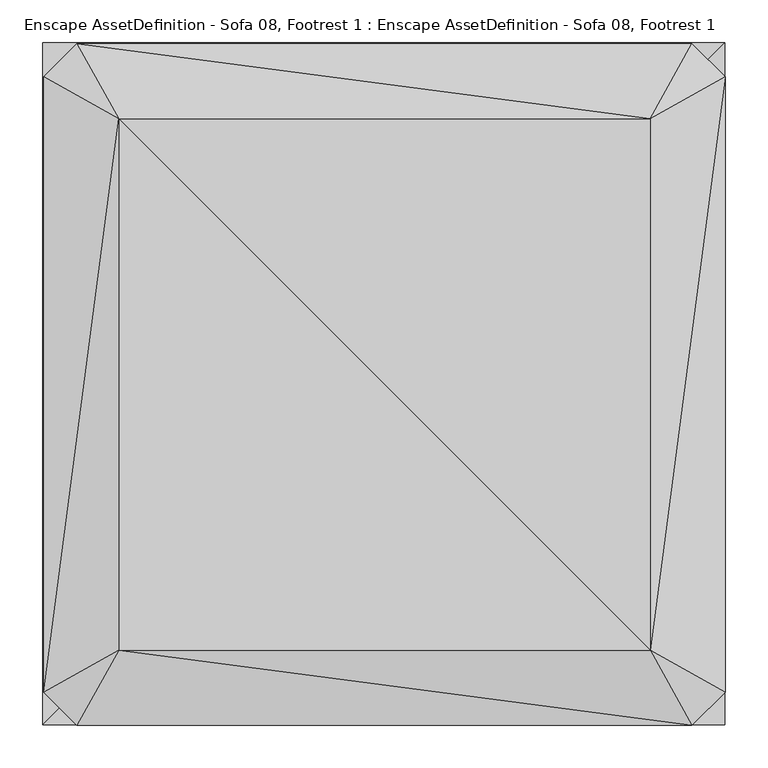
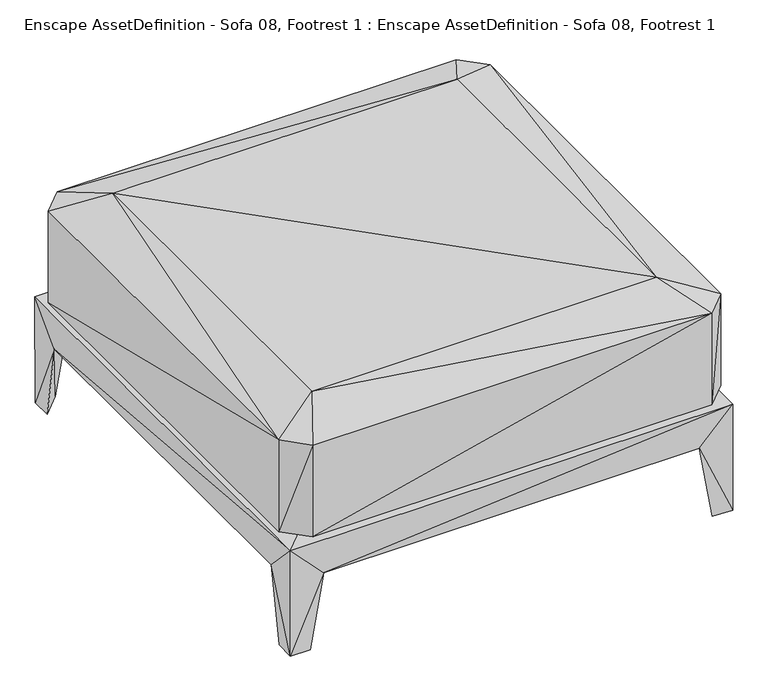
"""IFC4 building model written with IfcOpenShell, lengths in millimetres: geographic element geometry, Enscape AssetDefinition - Sofa 08, Footrest 1 : Enscape AssetDefinition - Sofa 08, Footrest 1."""

from ifc_helpers import new_model, si_unit, origin, place, context, project, spatial, faceted_brep, source, transform, mapped, element, save


def enscape_assetdefinition_sofa_08_footrest_1_enscape_865466e6(model_context):
    return source(origin(), model_context, "Body", "Brep", [
        faceted_brep([(-398.8949955, -358.6829901, 214.2020017), (-398.8949955, -358.6829901, 388.9780045), (-398.8949955, 360.1999879, 214.2020017), (-360.1709902, -397.4069953, 388.9780045), (-311.3360107, -309.8480105, 421.615988), (-311.3360107, 311.3650084, 421.615988), (-398.8949955, 360.1999879, 388.9780045), (-356.1829925, 356.2119901, 196.0189939), (-360.1709902, 398.9230096, 214.2020017), (-360.1709902, 398.9230096, 388.9780045), (309.8770082, -309.8480105, 421.615988), (309.8759949, 311.3650084, 421.615988), (358.7119877, -397.4069953, 388.9780045), (397.4350095, -358.6829901, 388.9780045), (397.4350095, 360.1999879, 388.9780045), (358.7119877, 398.9230096, 388.9780045), (358.7119877, 398.9230096, 214.2020017), (354.72399, 356.2119901, 196.0189939), (397.4350095, 360.1999879, 214.2020017), (397.4350095, -358.6829901, 214.2020017), (358.7119877, -397.4069953, 214.2020017), (354.72399, -354.6949923, 196.0189939), (-356.1829925, -354.6949923, 196.0189939), (-360.1709902, -397.4069953, 214.2020017)], [[[0, 1, 2]], [[1, 3, 4]], [[4, 5, 1]], [[2, 1, 6]], [[1, 5, 6]], [[0, 3, 1]], [[7, 2, 8]], [[7, 0, 2]], [[6, 8, 2]], [[9, 6, 5]], [[9, 8, 6]], [[4, 10, 5]], [[5, 11, 9]], [[5, 10, 11]], [[10, 4, 12]], [[12, 4, 3]], [[10, 12, 13]], [[11, 10, 14]], [[14, 10, 13]], [[14, 15, 11]], [[9, 11, 15]], [[8, 9, 16]], [[16, 9, 15]], [[8, 16, 7]], [[17, 16, 18]], [[16, 15, 18]], [[7, 16, 17]], [[18, 15, 14]], [[18, 14, 19]], [[19, 14, 13]], [[12, 20, 13]], [[13, 20, 19]], [[19, 20, 21]], [[21, 18, 19]], [[17, 18, 21]], [[21, 7, 17]], [[22, 7, 21]], [[20, 23, 21]], [[21, 23, 22]], [[20, 12, 23]], [[22, 23, 0]], [[23, 3, 0]], [[23, 12, 3]], [[22, 0, 7]]]),
        faceted_brep([(360.8190119, -396.0939944, 0.0), (396.9750106, -396.7719972, 0.0), (336.897999, -396.6290057, 138.4939998), (397.2750008, -396.9750106, 201.849997), (396.8349993, -336.710006, 138.3920014), (396.2979913, -360.6159985, 0.0), (396.8349993, 339.8939967, 138.3920014), (397.2750008, 400.1590014, 201.849997), (-339.6759927, -396.6290057, 138.4939998), (-400.0529945, -396.9750106, 201.849997), (-363.5970056, -396.0939944, 0.0), (-399.612993, -336.710006, 138.3920014), (-399.7530043, -396.7719972, 0.0), (-339.6759927, 399.8129964, 138.4939998), (-399.0750015, -360.6159985, 0.0), (-399.612993, 339.8939967, 138.3920014), (-400.0529945, 400.1590014, 201.849997), (-363.5970056, 399.2789984, 0.0), (-399.7530043, 399.9559879, 0.0), (-399.0750015, 363.7999892, 0.0), (336.897999, 399.8129964, 138.4939998), (396.9750106, 399.9559879, 0.0), (360.8190119, 399.2789984, 0.0), (396.2979913, 363.7999892, 0.0)], [[[0, 1, 2]], [[3, 1, 4]], [[1, 0, 5]], [[2, 1, 3]], [[4, 1, 5]], [[2, 4, 0]], [[0, 4, 5]], [[2, 6, 4]], [[3, 4, 7]], [[7, 4, 6]], [[2, 3, 8]], [[8, 3, 9]], [[7, 9, 3]], [[8, 10, 11]], [[9, 12, 8]], [[8, 12, 10]], [[13, 2, 8]], [[13, 8, 11]], [[14, 10, 12]], [[11, 10, 14]], [[9, 11, 12]], [[12, 11, 14]], [[13, 11, 15]], [[9, 15, 11]], [[16, 15, 9]], [[16, 9, 7]], [[13, 15, 17]], [[16, 18, 15]], [[17, 15, 19]], [[15, 18, 19]], [[7, 13, 16]], [[13, 18, 16]], [[17, 18, 13]], [[18, 17, 19]], [[20, 13, 7]], [[2, 13, 20]], [[7, 21, 20]], [[7, 6, 21]], [[20, 22, 6]], [[2, 20, 6]], [[20, 21, 22]], [[23, 22, 21]], [[21, 6, 23]], [[6, 22, 23]]]),
    ])


if __name__ == "__main__":
    model = new_model("IFC4")
    model_context = context("Model", 3, world=origin())
    ifc_project = project(units=[si_unit("LENGTHUNIT", "METRE", prefix="MILLI")], contexts=[model_context])
    site = spatial("IfcSite", under=ifc_project)
    building = spatial("IfcBuilding", under=site)
    placement = place(None, origin())
    enscape_assetdefinition_sofa_08_footrest_1_enscape_shape = enscape_assetdefinition_sofa_08_footrest_1_enscape_865466e6(model_context)
    element("IfcGeographicElement", 1, ObjectType="Enscape AssetDefinition - Sofa 08, Footrest 1 : Enscape AssetDefinition - Sofa 08, Footrest 1", at=placement, inside=building, context=model_context, shape_type="MappedRepresentation", body=[
        mapped(enscape_assetdefinition_sofa_08_footrest_1_enscape_shape, transform((0.0, 0.0, 0.0), x_axis=(1.0, 0.0, 0.0), y_axis=(0.0, 1.0, 0.0), z_axis=(0.0, 0.0, 1.0))),
    ])
    save(model, "model.ifc")
